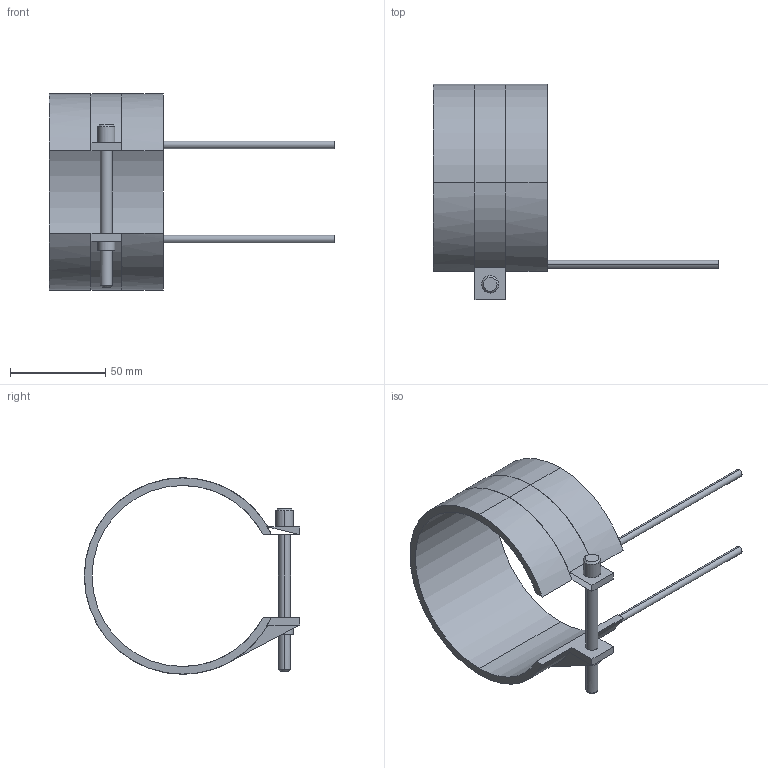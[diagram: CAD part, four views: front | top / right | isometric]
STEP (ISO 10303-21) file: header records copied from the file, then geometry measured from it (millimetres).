
FILE_DESCRIPTION(('CATIA V5 STEP Exchange'),'2;1');
FILE_NAME('C:\Users\Utente\Desktop\IO LAVORO\3D X SITO CF\X SITO\PLASTICA\RF2\14095060.stp','2021-04-06T16:26:39+00:00',('none'),('none'),'CATIA Version 5 Release 20 GA (IN-10)','CATIA V5 STEP AP203','none');
FILE_SCHEMA(('CONFIG_CONTROL_DESIGN'));
Length unit declared in the file: millimetre
Products named in the file (1): 14095060
Bounding box: 150 x 113.1 x 103.2 mm (x, y, z)
Volume: 71442.3 mm3; surface area: 39724.3 mm2
Topology: 1 solids, 1 shells, 45 faces, 116 edges, 76 vertices
Faces by surface type: cylinder 24, plane 17, cone 4
Entity records: 1406 total; most frequent: CARTESIAN_POINT 282, ORIENTED_EDGE 232, DIRECTION 195, EDGE_CURVE 116, AXIS2_PLACEMENT_3D 103, VERTEX_POINT 76, CIRCLE 61, VECTOR 52
